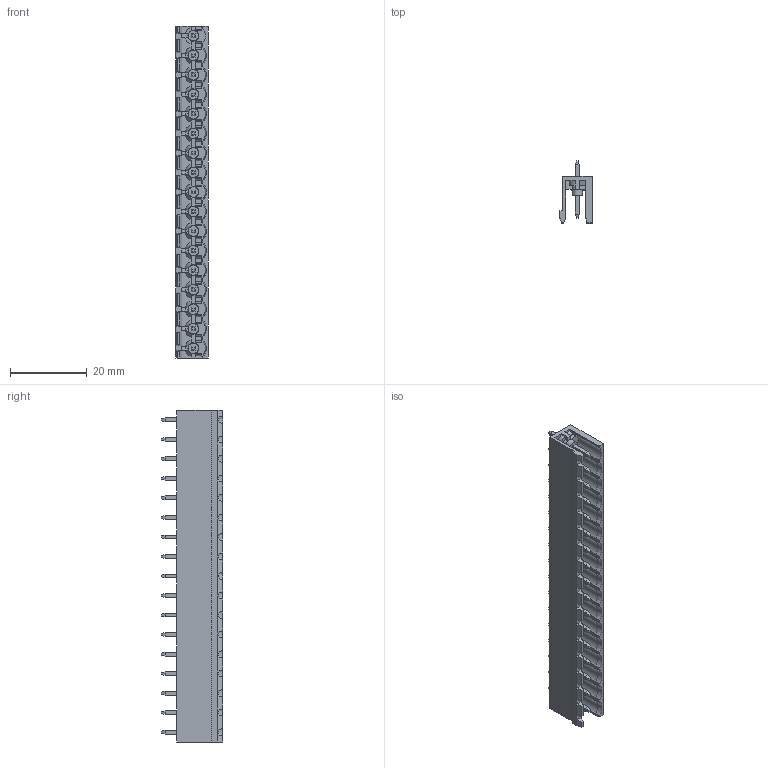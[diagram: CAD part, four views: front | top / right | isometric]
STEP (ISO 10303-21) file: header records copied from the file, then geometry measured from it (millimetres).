
FILE_DESCRIPTION (( 'STEP AP203' ), '1' );
FILE_NAME ('BR8MC1-17.STEP', '2020-03-18T03:05:23', ( '' ), ( '' ), 'SwSTEP 2.0', 'SolidWorks 2019', '' );
FILE_SCHEMA (( 'CONFIG_CONTROL_DESIGN' ));
Length unit declared in the file: millimetre
Products named in the file (1): BR8MC1-17
Bounding box: 8.5 x 16.03 x 86.36 mm (x, y, z)
Volume: 3270.7 mm3; surface area: 7240.4 mm2
Topology: 1 solids, 1 shells, 1430 faces, 3726 edges, 2298 vertices
Faces by surface type: plane 1228, cylinder 86, cone 82, sphere 34
Entity records: 42488 total; most frequent: CARTESIAN_POINT 8117, ORIENTED_EDGE 7316, DIRECTION 6697, EDGE_CURVE 3658, LINE 3121, VECTOR 3121, VERTEX_POINT 2264, AXIS2_PLACEMENT_3D 1788
